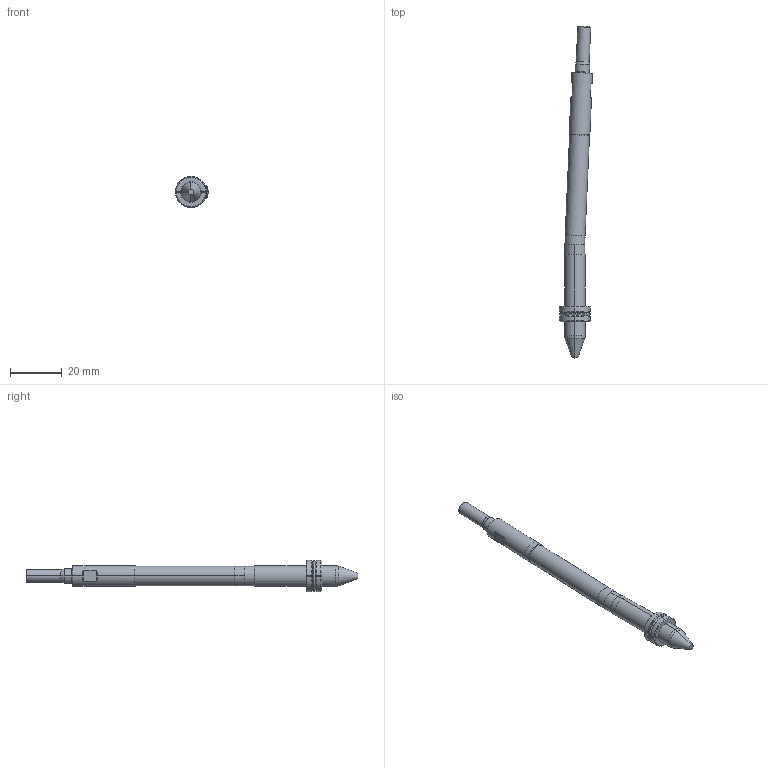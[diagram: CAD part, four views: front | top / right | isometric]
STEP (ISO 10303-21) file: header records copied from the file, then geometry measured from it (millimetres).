
FILE_DESCRIPTION (( 'STEP AP214' ), '1' );
FILE_NAME ('WP080030-EJE 2,5°.STEP', '2021-03-19T15:18:25', ( '' ), ( '' ), 'SwSTEP 2.0', 'SolidWorks 2019', '' );
FILE_SCHEMA (( 'AUTOMOTIVE_DESIGN' ));
Length unit declared in the file: millimetre
Products named in the file (6): Web-WP08-2; Web-WP08-1; Web-WP08-6; Web-WP08-F_WP08-F-ON 2,5ø; WP080030-EJE 2,5°; Web-WP08-7
Assembly tree (5 placements, depth 2):
  WP080030-EJE 2,5°
    Web-WP08-1
    Web-WP08-F_WP08-F-ON 2,5ø
    Web-WP08-2
    Web-WP08-6
    Web-WP08-7
Bounding box: 12.8 x 128.02 x 12 mm (x, y, z)
Volume: 5841.2 mm3; surface area: 4095.3 mm2
Topology: 6 solids, 6 shells, 121 faces, 280 edges, 174 vertices
Faces by surface type: cylinder 36, plane 29, cone 28, torus 28
Entity records: 3977 total; most frequent: CARTESIAN_POINT 767, DIRECTION 652, ORIENTED_EDGE 560, AXIS2_PLACEMENT_3D 283, EDGE_CURVE 280, VERTEX_POINT 174, CIRCLE 154, EDGE_LOOP 126
